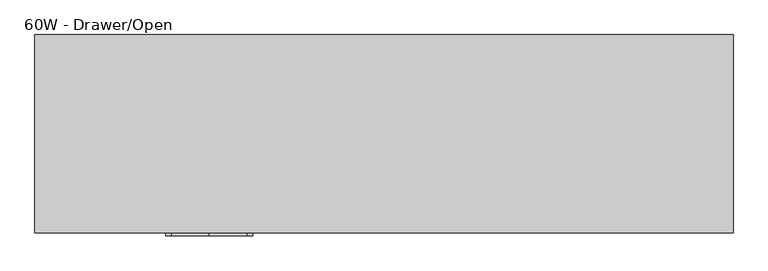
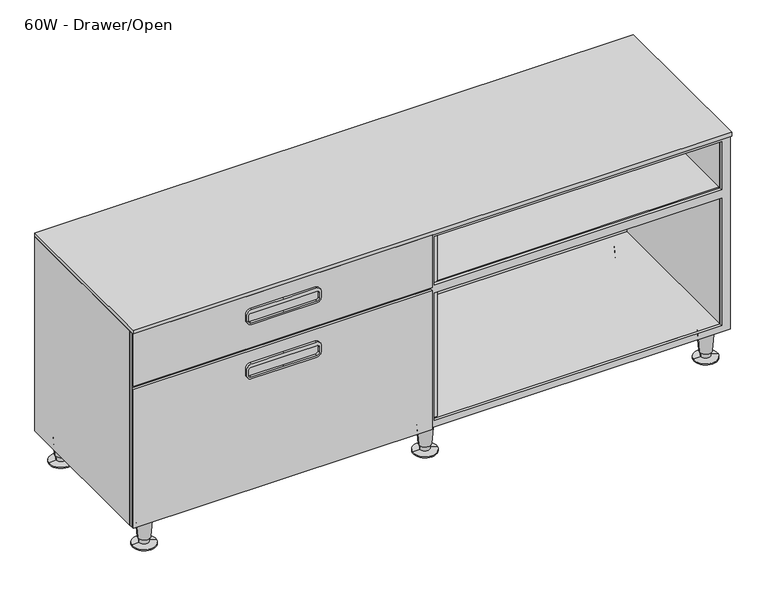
"""IFC4 building model written with IfcOpenShell, lengths in millimetres: furniture geometry, Steelcase - C Scape - Low Storage - 1.5 High - 60W and 72W : 60W - Drawer/Open."""

from ifc_helpers import new_model, si_unit, point, frame, frame_2d, origin, place, context, project, spatial, polyline, circle_curve, trimmed, segment, composite_curve, outline, extrude, faceted_brep, source, transform, mapped, element, save
from ifc_brep_helpers import plane_surface, cylinder_surface, revolved_surface, advanced_brep


def furniture_60w_drawer_open_d55c72f7(model_context):
    return source(origin(), model_context, "Body", "SolidModel", [
        extrude(outline(polyline([(76.1508625, -305.435), (76.1508625, 1218.565), (599.4400097, 1218.565), (599.4400097, 457.132594), (599.4400097, -305.435), (76.1508625, -305.435)]), holes=[polyline([(92.7100024, 447.6410976), (92.7100024, -283.4617676), (436.8800097, -283.4617676), (436.8800097, 447.6410976), (92.7100024, 447.6410976)]), polyline([(588.9625, -283.4617676), (588.9625, 447.6410976), (458.7240097, 447.6410976), (458.7240097, -283.4617676), (588.9625, -283.4617676)]), polyline([(436.8800097, 465.4889024), (436.8800097, 1196.5917676), (92.7100024, 1196.5917676), (92.7100024, 465.4889024), (436.8800097, 465.4889024)]), polyline([(588.9625, 1196.5917676), (458.7240097, 1196.5917676), (458.7240097, 465.4889024), (588.9625, 465.4889024), (588.9625, 1196.5917676)])]), frame((0.0, -426.7186111, 0.0), z_axis=(0.0, 1.0, 0.0), x_axis=(0.0, 0.0, 1.0)), (0.0, 0.0, 1.0), 7.3648883),
        extrude(outline(polyline([(479.1075126, -9.525), (1196.5917676, -9.525), (1196.5917676, -415.2912402), (479.1075126, -415.2912402), (479.1075126, -9.525)])), frame((0.0, 0.0, 436.8800097), z_axis=(0.0, 0.0, 1.0), x_axis=(1.0, 0.0, 0.0)), (0.0, 0.0, 1.0), 21.844),
        extrude(outline(polyline([(434.0224874, -415.2912402), (-283.4617676, -415.2912402), (-283.4617676, -9.525), (434.0224874, -9.525), (434.0224874, -415.2912402)])), frame((0.0, 0.0, 436.8800097), z_axis=(0.0, 0.0, 1.0), x_axis=(1.0, 0.0, 0.0)), (0.0, 0.0, 1.0), 21.844),
        extrude(outline(composite_curve([segment(polyline([(419.0999879, 157.4804108), (419.0999879, 75.247655), (419.0999879, -6.9851007)]), True, "CONTINUOUS"), segment(trimmed(circle_curve(frame_2d((406.3999879, -6.9851007)), 12.7), [point((419.0999879, -6.9851007))], [point((406.3999879, -19.6851007))], False, "CARTESIAN"), True, "CONTINUOUS"), segment(polyline([(406.3999879, -19.6851007), (391.795017, -19.6851007)]), True, "CONTINUOUS"), segment(trimmed(circle_curve(frame_2d((391.795017, -6.9851007)), 12.7), [point((391.795017, -19.6851007))], [point((379.095017, -6.9851007))], False, "CARTESIAN"), True, "CONTINUOUS"), segment(polyline([(379.095017, -6.9851007), (379.095017, 75.247655), (379.095017, 157.4804108)]), True, "CONTINUOUS"), segment(trimmed(circle_curve(frame_2d((391.795017, 157.4804108)), 12.7), [point((379.095017, 157.4804108))], [point((391.795017, 170.1804108))], False, "CARTESIAN"), True, "CONTINUOUS"), segment(polyline([(391.795017, 170.1804108), (406.3999879, 170.1804108)]), True, "CONTINUOUS"), segment(trimmed(circle_curve(frame_2d((406.3999879, 157.4804108)), 12.7), [point((406.3999879, 170.1804108))], [point((419.0999879, 157.4804108))], False, "CARTESIAN"), True, "CONTINUOUS")], self_intersect=False), holes=[composite_curve([segment(polyline([(402.9710063, 165.3527985), (390.2709942, 165.3527985)]), True, "CONTINUOUS"), segment(trimmed(circle_curve(frame_2d((390.2709942, 159.0027985)), 6.35), [point((390.2709942, 165.3527985))], [point((383.9209942, 159.0027985))], True, "CARTESIAN"), True, "CONTINUOUS"), segment(polyline([(383.9209942, 159.0027985), (383.9209942, 75.247655), (383.9209942, -8.5074884)]), True, "CONTINUOUS"), segment(trimmed(circle_curve(frame_2d((390.2709942, -8.5074884)), 6.35), [point((383.9209942, -8.5074884))], [point((390.2709942, -14.8574884))], True, "CARTESIAN"), True, "CONTINUOUS"), segment(polyline([(390.2709942, -14.8574884), (402.9710063, -14.8574884)]), True, "CONTINUOUS"), segment(trimmed(circle_curve(frame_2d((402.9710063, -8.5074884)), 6.35), [point((402.9710063, -14.8574884))], [point((409.3210063, -8.5074884))], True, "CARTESIAN"), True, "CONTINUOUS"), segment(polyline([(409.3210063, -8.5074884), (409.3210063, 75.247655), (409.3210063, 159.0027985)]), True, "CONTINUOUS"), segment(trimmed(circle_curve(frame_2d((402.9710063, 159.0027985)), 6.35), [point((409.3210063, 159.0027985))], [point((402.9710063, 165.3527985))], True, "CARTESIAN"), True, "CONTINUOUS")], self_intersect=False)]), frame((0.0, -439.42, 0.0), z_axis=(0.0, 1.0, 0.0), x_axis=(0.0, 0.0, 1.0)), (0.0, 0.0, 1.0), 6.35),
        extrude(outline(polyline([(455.9303101, -426.7186111), (455.9303101, -433.07), (-304.8, -433.07), (-304.8, -426.7186111), (455.9303101, -426.7186111)])), frame((0.0, 0.0, 458.7240097), z_axis=(0.0, 0.0, 1.0), x_axis=(1.0, 0.0, 0.0)), (0.0, 0.0, 1.0), 140.716),
        faceted_brep([(-283.4617676, -419.3537227, 92.7100024), (1196.5917676, -419.3537227, 92.7100024), (1196.5917676, -9.525, 92.7100024), (479.1075126, -9.525, 92.7100024), (479.1075126, -415.2912402, 92.7100024), (434.0224874, -415.2912402, 92.7100024), (434.0224874, -9.525, 92.7100024), (-283.4617676, -9.525, 92.7100024), (1218.565, 0.0, 76.2), (1218.565, -419.3537227, 76.2), (-305.435, -419.3537227, 76.2), (-305.435, 0.0, 76.2), (-283.4630912, -419.3537227, 599.4400097), (-305.435, -419.3537227, 599.4400097), (1218.565, -419.3537227, 599.4400097), (1196.5917676, -419.3537227, 599.4400097), (-305.435, 0.0, 599.4400097), (1218.565, 0.0, 599.4400097), (-283.4630912, -9.525, 599.4400097), (434.0224874, -9.525, 599.4400097), (434.0224874, -415.2912402, 599.4400097), (479.1075126, -415.2912402, 599.4400097), (479.1075126, -9.525, 599.4400097), (1196.5917676, -9.525, 599.4400097)], [[[0, 1, 2, 3, 4, 5, 6, 7]], [[8, 9, 10, 11]], [[1, 0, 12, 13, 10, 9, 14, 15]], [[8, 11, 16, 17]], [[16, 13, 12, 18, 19, 20, 21, 22, 23, 15, 14, 17]], [[13, 16, 11, 10]], [[18, 12, 0, 7]], [[19, 18, 7, 6]], [[20, 19, 6, 5]], [[22, 21, 4, 3]], [[23, 22, 3, 2]], [[15, 23, 2, 1]], [[17, 14, 9, 8]], [[21, 20, 5, 4]]]),
        extrude(outline(composite_curve([segment(polyline([(565.1499879, 157.4804108), (565.1499879, 75.247655), (565.1499879, -6.9851007)]), True, "CONTINUOUS"), segment(trimmed(circle_curve(frame_2d((552.4499879, -6.9851007)), 12.7), [point((565.1499879, -6.9851007))], [point((552.4499879, -19.6851007))], False, "CARTESIAN"), True, "CONTINUOUS"), segment(polyline([(552.4499879, -19.6851007), (537.845017, -19.6851007)]), True, "CONTINUOUS"), segment(trimmed(circle_curve(frame_2d((537.845017, -6.9851007)), 12.7), [point((537.845017, -19.6851007))], [point((525.145017, -6.9851007))], False, "CARTESIAN"), True, "CONTINUOUS"), segment(polyline([(525.145017, -6.9851007), (525.145017, 75.247655), (525.145017, 157.4804108)]), True, "CONTINUOUS"), segment(trimmed(circle_curve(frame_2d((537.845017, 157.4804108)), 12.7), [point((525.145017, 157.4804108))], [point((537.845017, 170.1804108))], False, "CARTESIAN"), True, "CONTINUOUS"), segment(polyline([(537.845017, 170.1804108), (552.4499879, 170.1804108)]), True, "CONTINUOUS"), segment(trimmed(circle_curve(frame_2d((552.4499879, 157.4804108)), 12.7), [point((552.4499879, 170.1804108))], [point((565.1499879, 157.4804108))], False, "CARTESIAN"), True, "CONTINUOUS")], self_intersect=False), holes=[composite_curve([segment(polyline([(549.0210063, 165.3527985), (536.3209942, 165.3527985)]), True, "CONTINUOUS"), segment(trimmed(circle_curve(frame_2d((536.3209942, 159.0027985)), 6.35), [point((536.3209942, 165.3527985))], [point((529.9709942, 159.0027985))], True, "CARTESIAN"), True, "CONTINUOUS"), segment(polyline([(529.9709942, 159.0027985), (529.9709942, 75.247655), (529.9709942, -8.5074884)]), True, "CONTINUOUS"), segment(trimmed(circle_curve(frame_2d((536.3209942, -8.5074884)), 6.35), [point((529.9709942, -8.5074884))], [point((536.3209942, -14.8574884))], True, "CARTESIAN"), True, "CONTINUOUS"), segment(polyline([(536.3209942, -14.8574884), (549.0210063, -14.8574884)]), True, "CONTINUOUS"), segment(trimmed(circle_curve(frame_2d((549.0210063, -8.5074884)), 6.35), [point((549.0210063, -14.8574884))], [point((555.3710063, -8.5074884))], True, "CARTESIAN"), True, "CONTINUOUS"), segment(polyline([(555.3710063, -8.5074884), (555.3710063, 75.247655), (555.3710063, 159.0027985)]), True, "CONTINUOUS"), segment(trimmed(circle_curve(frame_2d((549.0210063, 159.0027985)), 6.35), [point((555.3710063, 159.0027985))], [point((549.0210063, 165.3527985))], True, "CARTESIAN"), True, "CONTINUOUS")], self_intersect=False)]), frame((0.0, -439.42, 0.0), z_axis=(0.0, 1.0, 0.0), x_axis=(0.0, 0.0, 1.0)), (0.0, 0.0, 1.0), 6.35),
        extrude(outline(polyline([(455.9303101, -426.7186111), (455.9303101, -433.07), (-304.8, -433.07), (-304.8, -426.7186111), (455.9303101, -426.7186111)])), frame((0.0, 0.0, 76.2), z_axis=(0.0, 0.0, 1.0), x_axis=(1.0, 0.0, 0.0)), (0.0, 0.0, 1.0), 374.6500097),
        advanced_brep(
        [(427.4539515, -29.9489775, 0.0), (485.6760485, -38.8569507, 0.0), (456.565, -34.4029641, 0.0), (427.4539515, -29.9489775, 2.5119506), (485.6760485, -38.8569507, 2.5119506), (444.802835, -32.6033544, 5.7545598), (468.327165, -36.2025738, 5.7545598), (444.1140655, -32.4979728, 19.05), (469.0159345, -36.3079555, 19.05), (441.6844786, -32.1262463, 19.05), (471.4455214, -36.6796819, 19.05), (437.7341305, -31.5218435, 76.2), (475.3958695, -37.2840847, 76.2), (456.565, -34.4029641, 76.2)],
        [
            (0, 1, circle_curve(frame((456.565, -34.4029641, 0.0), z_axis=(0.0, 0.0, -1.0), x_axis=(0.0, -1.0, 0.0)), 29.4498071)),
            (1, 2),
            (2, 0),
            (1, 0, circle_curve(frame((456.565, -34.4029641, 0.0), z_axis=(0.0, 0.0, -1.0), x_axis=(0.0, -1.0, 0.0)), 29.4498071)),
            (3, 4, circle_curve(frame((456.565, -34.4029641, 2.5119506), z_axis=(0.0, 0.0, -1.0), x_axis=(0.0, -1.0, 0.0)), 29.4498071)),
            (4, 1),
            (0, 3),
            (4, 3, circle_curve(frame((456.565, -34.4029641, 2.5119506), z_axis=(0.0, 0.0, -1.0), x_axis=(0.0, -1.0, 0.0)), 29.4498071)),
            (5, 6, circle_curve(frame((456.565, -34.4029641, 5.7545598), z_axis=(0.0, 0.0, -1.0), x_axis=(0.0, -1.0, 0.0)), 11.8990387)),
            (6, 4),
            (3, 5),
            (6, 5, circle_curve(frame((456.565, -34.4029641, 5.7545598), z_axis=(0.0, 0.0, -1.0), x_axis=(0.0, -1.0, 0.0)), 11.8990387)),
            (7, 8, circle_curve(frame((456.565, -34.4029641, 19.05), z_axis=(0.0, 0.0, -1.0), x_axis=(0.0, -1.0, 0.0)), 12.5958232)),
            (8, 6),
            (5, 7),
            (8, 7, circle_curve(frame((456.565, -34.4029641, 19.05), z_axis=(0.0, 0.0, -1.0), x_axis=(0.0, -1.0, 0.0)), 12.5958232)),
            (9, 10, circle_curve(frame((456.565, -34.4029641, 19.05), z_axis=(0.0, 0.0, -1.0), x_axis=(0.0, -1.0, 0.0)), 15.0536827)),
            (10, 8),
            (7, 9),
            (10, 9, circle_curve(frame((456.565, -34.4029641, 19.05), z_axis=(0.0, 0.0, -1.0), x_axis=(0.0, -1.0, 0.0)), 15.0536827)),
            (11, 12, circle_curve(frame((456.565, -34.4029641, 76.2), z_axis=(0.0, 0.0, -1.0), x_axis=(0.0, -1.0, 0.0)), 19.05)),
            (12, 10),
            (9, 11),
            (12, 11, circle_curve(frame((456.565, -34.4029641, 76.2), z_axis=(0.0, 0.0, -1.0), x_axis=(0.0, -1.0, 0.0)), 19.05)),
            (13, 12),
            (11, 13),
        ],
        [
            plane_surface(frame((456.565, -34.4029641, 0.0), z_axis=(0.0, 0.0, -1.0), x_axis=(0.0, -1.0, 0.0))),
            cylinder_surface(frame((456.565, -34.4029641, 25.4), z_axis=(0.0, 0.0, 1.0), x_axis=(0.0, -1.0, 0.0)), 29.4498071),
            revolved_surface(polyline([(456.565, -63.8527712, 2.5119506), (456.565, -46.3020028, 5.7545598)]), (456.565, -34.4029641, 25.4), (0.0, 0.0, 1.0)),
            revolved_surface(polyline([(456.565, -46.3020028, 5.7545598), (456.565, -46.9987873, 19.05)]), (456.565, -34.4029641, 25.4), (0.0, 0.0, 1.0)),
            plane_surface(frame((456.565, -34.4029641, 19.05), z_axis=(0.0, 0.0, -1.0), x_axis=(0.0, -1.0, 0.0))),
            revolved_surface(polyline([(456.565, -49.4566468, 19.05), (456.565, -53.4529641, 76.2)]), (456.565, -34.4029641, 25.4), (0.0, 0.0, 1.0)),
            plane_surface(frame((456.565, -34.4029641, 76.2), z_axis=(0.0, 0.0, 1.0), x_axis=(0.0, -1.0, 0.0))),
        ],
        [
            (0, [[1, 2, 3]]),
            (0, [[4, -3, -2]]),
            (1, [[5, 6, -1, 7]]),
            (1, [[8, -7, -4, -6]]),
            (2, [[9, 10, -5, 11]]),
            (2, [[12, -11, -8, -10]]),
            (3, [[13, 14, -9, 15]]),
            (3, [[16, -15, -12, -14]]),
            (4, [[17, 18, -13, 19]]),
            (4, [[20, -19, -16, -18]]),
            (5, [[21, 22, -17, 23]]),
            (5, [[24, -23, -20, -22]]),
            (6, [[25, -21, 26]]),
            (6, [[-26, -24, -25]]),
        ],
    ),
        advanced_brep(
        [(427.4539515, -395.5974102, 0.0), (485.6760485, -404.5053834, 0.0), (456.565, -400.0513968, 0.0), (427.4539515, -395.5974102, 2.5119506), (485.6760485, -404.5053834, 2.5119506), (444.802835, -398.2517871, 5.7545598), (468.327165, -401.8510065, 5.7545598), (444.1140655, -398.1464055, 19.05), (469.0159345, -401.9563882, 19.05), (441.6844786, -397.774679, 19.05), (471.4455214, -402.3281146, 19.05), (437.7341305, -397.1702762, 76.2), (475.3958695, -402.9325174, 76.2), (456.565, -400.0513968, 76.2)],
        [
            (0, 1, circle_curve(frame((456.565, -400.0513968, 0.0), z_axis=(0.0, 0.0, -1.0), x_axis=(0.0, -1.0, 0.0)), 29.4498071)),
            (1, 2),
            (2, 0),
            (1, 0, circle_curve(frame((456.565, -400.0513968, 0.0), z_axis=(0.0, 0.0, -1.0), x_axis=(0.0, -1.0, 0.0)), 29.4498071)),
            (3, 4, circle_curve(frame((456.565, -400.0513968, 2.5119506), z_axis=(0.0, 0.0, -1.0), x_axis=(0.0, -1.0, 0.0)), 29.4498071)),
            (4, 1),
            (0, 3),
            (4, 3, circle_curve(frame((456.565, -400.0513968, 2.5119506), z_axis=(0.0, 0.0, -1.0), x_axis=(0.0, -1.0, 0.0)), 29.4498071)),
            (5, 6, circle_curve(frame((456.565, -400.0513968, 5.7545598), z_axis=(0.0, 0.0, -1.0), x_axis=(0.0, -1.0, 0.0)), 11.8990387)),
            (6, 4),
            (3, 5),
            (6, 5, circle_curve(frame((456.565, -400.0513968, 5.7545598), z_axis=(0.0, 0.0, -1.0), x_axis=(0.0, -1.0, 0.0)), 11.8990387)),
            (7, 8, circle_curve(frame((456.565, -400.0513968, 19.05), z_axis=(0.0, 0.0, -1.0), x_axis=(0.0, -1.0, 0.0)), 12.5958232)),
            (8, 6),
            (5, 7),
            (8, 7, circle_curve(frame((456.565, -400.0513968, 19.05), z_axis=(0.0, 0.0, -1.0), x_axis=(0.0, -1.0, 0.0)), 12.5958232)),
            (9, 10, circle_curve(frame((456.565, -400.0513968, 19.05), z_axis=(0.0, 0.0, -1.0), x_axis=(0.0, -1.0, 0.0)), 15.0536827)),
            (10, 8),
            (7, 9),
            (10, 9, circle_curve(frame((456.565, -400.0513968, 19.05), z_axis=(0.0, 0.0, -1.0), x_axis=(0.0, -1.0, 0.0)), 15.0536827)),
            (11, 12, circle_curve(frame((456.565, -400.0513968, 76.2), z_axis=(0.0, 0.0, -1.0), x_axis=(0.0, -1.0, 0.0)), 19.05)),
            (12, 10),
            (9, 11),
            (12, 11, circle_curve(frame((456.565, -400.0513968, 76.2), z_axis=(0.0, 0.0, -1.0), x_axis=(0.0, -1.0, 0.0)), 19.05)),
            (13, 12),
            (11, 13),
        ],
        [
            plane_surface(frame((456.565, -400.0513968, 0.0), z_axis=(0.0, 0.0, -1.0), x_axis=(0.0, -1.0, 0.0))),
            cylinder_surface(frame((456.565, -400.0513968, 25.4), z_axis=(0.0, 0.0, 1.0), x_axis=(0.0, -1.0, 0.0)), 29.4498071),
            revolved_surface(polyline([(456.565, -429.5012039, 2.5119506), (456.565, -411.9504355, 5.7545598)]), (456.565, -400.0513968, 25.4), (0.0, 0.0, 1.0)),
            revolved_surface(polyline([(456.565, -411.9504355, 5.7545598), (456.565, -412.64722, 19.05)]), (456.565, -400.0513968, 25.4), (0.0, 0.0, 1.0)),
            plane_surface(frame((456.565, -400.0513968, 19.05), z_axis=(0.0, 0.0, -1.0), x_axis=(0.0, -1.0, 0.0))),
            revolved_surface(polyline([(456.565, -415.1050795, 19.05), (456.565, -419.1013968, 76.2)]), (456.565, -400.0513968, 25.4), (0.0, 0.0, 1.0)),
            plane_surface(frame((456.565, -400.0513968, 76.2), z_axis=(0.0, 0.0, 1.0), x_axis=(0.0, -1.0, 0.0))),
        ],
        [
            (0, [[1, 2, 3]]),
            (0, [[4, -3, -2]]),
            (1, [[5, 6, -1, 7]]),
            (1, [[8, -7, -4, -6]]),
            (2, [[9, 10, -5, 11]]),
            (2, [[12, -11, -8, -10]]),
            (3, [[13, 14, -9, 15]]),
            (3, [[16, -15, -12, -14]]),
            (4, [[17, 18, -13, 19]]),
            (4, [[20, -19, -16, -18]]),
            (5, [[21, 22, -17, 23]]),
            (5, [[24, -23, -20, -22]]),
            (6, [[25, -21, 26]]),
            (6, [[-26, -24, -25]]),
        ],
    ),
        advanced_brep(
        [(1142.1075389, -29.9489775, 0.0), (1200.3296359, -38.8569507, 0.0), (1171.2185874, -34.4029641, 0.0), (1142.1075389, -29.9489775, 2.5119506), (1200.3296359, -38.8569507, 2.5119506), (1159.4564224, -32.6033544, 5.7545598), (1182.9807524, -36.2025738, 5.7545598), (1158.7676529, -32.4979728, 19.05), (1183.6695219, -36.3079555, 19.05), (1156.3380659, -32.1262463, 19.05), (1186.0991088, -36.6796819, 19.05), (1152.3877179, -31.5218435, 76.2), (1190.0494568, -37.2840847, 76.2), (1171.2185874, -34.4029641, 76.2)],
        [
            (0, 1, circle_curve(frame((1171.2185874, -34.4029641, 0.0), z_axis=(0.0, 0.0, -1.0), x_axis=(0.0, -1.0, 0.0)), 29.4498071)),
            (1, 2),
            (2, 0),
            (1, 0, circle_curve(frame((1171.2185874, -34.4029641, 0.0), z_axis=(0.0, 0.0, -1.0), x_axis=(0.0, -1.0, 0.0)), 29.4498071)),
            (3, 4, circle_curve(frame((1171.2185874, -34.4029641, 2.5119506), z_axis=(0.0, 0.0, -1.0), x_axis=(0.0, -1.0, 0.0)), 29.4498071)),
            (4, 1),
            (0, 3),
            (4, 3, circle_curve(frame((1171.2185874, -34.4029641, 2.5119506), z_axis=(0.0, 0.0, -1.0), x_axis=(0.0, -1.0, 0.0)), 29.4498071)),
            (5, 6, circle_curve(frame((1171.2185874, -34.4029641, 5.7545598), z_axis=(0.0, 0.0, -1.0), x_axis=(0.0, -1.0, 0.0)), 11.8990387)),
            (6, 4),
            (3, 5),
            (6, 5, circle_curve(frame((1171.2185874, -34.4029641, 5.7545598), z_axis=(0.0, 0.0, -1.0), x_axis=(0.0, -1.0, 0.0)), 11.8990387)),
            (7, 8, circle_curve(frame((1171.2185874, -34.4029641, 19.05), z_axis=(0.0, 0.0, -1.0), x_axis=(0.0, -1.0, 0.0)), 12.5958232)),
            (8, 6),
            (5, 7),
            (8, 7, circle_curve(frame((1171.2185874, -34.4029641, 19.05), z_axis=(0.0, 0.0, -1.0), x_axis=(0.0, -1.0, 0.0)), 12.5958232)),
            (9, 10, circle_curve(frame((1171.2185874, -34.4029641, 19.05), z_axis=(0.0, 0.0, -1.0), x_axis=(0.0, -1.0, 0.0)), 15.0536827)),
            (10, 8),
            (7, 9),
            (10, 9, circle_curve(frame((1171.2185874, -34.4029641, 19.05), z_axis=(0.0, 0.0, -1.0), x_axis=(0.0, -1.0, 0.0)), 15.0536827)),
            (11, 12, circle_curve(frame((1171.2185874, -34.4029641, 76.2), z_axis=(0.0, 0.0, -1.0), x_axis=(0.0, -1.0, 0.0)), 19.05)),
            (12, 10),
            (9, 11),
            (12, 11, circle_curve(frame((1171.2185874, -34.4029641, 76.2), z_axis=(0.0, 0.0, -1.0), x_axis=(0.0, -1.0, 0.0)), 19.05)),
            (13, 12),
            (11, 13),
        ],
        [
            plane_surface(frame((1171.2185874, -34.4029641, 0.0), z_axis=(0.0, 0.0, -1.0), x_axis=(0.0, -1.0, 0.0))),
            cylinder_surface(frame((1171.2185874, -34.4029641, 25.4), z_axis=(0.0, 0.0, 1.0), x_axis=(0.0, -1.0, 0.0)), 29.4498071),
            revolved_surface(polyline([(1171.2185874, -63.8527712, 2.5119506), (1171.2185874, -46.3020028, 5.7545598)]), (1171.2185874, -34.4029641, 25.4), (0.0, 0.0, 1.0)),
            revolved_surface(polyline([(1171.2185874, -46.3020028, 5.7545598), (1171.2185874, -46.9987873, 19.05)]), (1171.2185874, -34.4029641, 25.4), (0.0, 0.0, 1.0)),
            plane_surface(frame((1171.2185874, -34.4029641, 19.05), z_axis=(0.0, 0.0, -1.0), x_axis=(0.0, -1.0, 0.0))),
            revolved_surface(polyline([(1171.2185874, -49.4566468, 19.05), (1171.2185874, -53.4529641, 76.2)]), (1171.2185874, -34.4029641, 25.4), (0.0, 0.0, 1.0)),
            plane_surface(frame((1171.2185874, -34.4029641, 76.2), z_axis=(0.0, 0.0, 1.0), x_axis=(0.0, -1.0, 0.0))),
        ],
        [
            (0, [[1, 2, 3]]),
            (0, [[4, -3, -2]]),
            (1, [[5, 6, -1, 7]]),
            (1, [[8, -7, -4, -6]]),
            (2, [[9, 10, -5, 11]]),
            (2, [[12, -11, -8, -10]]),
            (3, [[13, 14, -9, 15]]),
            (3, [[16, -15, -12, -14]]),
            (4, [[17, 18, -13, 19]]),
            (4, [[20, -19, -16, -18]]),
            (5, [[21, 22, -17, 23]]),
            (5, [[24, -23, -20, -22]]),
            (6, [[25, -21, 26]]),
            (6, [[-26, -24, -25]]),
        ],
    ),
        advanced_brep(
        [(1142.1075389, -395.5974102, 0.0), (1200.3296359, -404.5053834, 0.0), (1171.2185874, -400.0513968, 0.0), (1142.1075389, -395.5974102, 2.5119506), (1200.3296359, -404.5053834, 2.5119506), (1159.4564224, -398.2517871, 5.7545598), (1182.9807524, -401.8510065, 5.7545598), (1158.7676529, -398.1464055, 19.05), (1183.6695219, -401.9563882, 19.05), (1156.3380659, -397.774679, 19.05), (1186.0991088, -402.3281146, 19.05), (1152.3877179, -397.1702762, 76.2), (1190.0494568, -402.9325174, 76.2), (1171.2185874, -400.0513968, 76.2)],
        [
            (0, 1, circle_curve(frame((1171.2185874, -400.0513968, 0.0), z_axis=(0.0, 0.0, -1.0), x_axis=(0.0, -1.0, 0.0)), 29.4498071)),
            (1, 2),
            (2, 0),
            (1, 0, circle_curve(frame((1171.2185874, -400.0513968, 0.0), z_axis=(0.0, 0.0, -1.0), x_axis=(0.0, -1.0, 0.0)), 29.4498071)),
            (3, 4, circle_curve(frame((1171.2185874, -400.0513968, 2.5119506), z_axis=(0.0, 0.0, -1.0), x_axis=(0.0, -1.0, 0.0)), 29.4498071)),
            (4, 1),
            (0, 3),
            (4, 3, circle_curve(frame((1171.2185874, -400.0513968, 2.5119506), z_axis=(0.0, 0.0, -1.0), x_axis=(0.0, -1.0, 0.0)), 29.4498071)),
            (5, 6, circle_curve(frame((1171.2185874, -400.0513968, 5.7545598), z_axis=(0.0, 0.0, -1.0), x_axis=(0.0, -1.0, 0.0)), 11.8990387)),
            (6, 4),
            (3, 5),
            (6, 5, circle_curve(frame((1171.2185874, -400.0513968, 5.7545598), z_axis=(0.0, 0.0, -1.0), x_axis=(0.0, -1.0, 0.0)), 11.8990387)),
            (7, 8, circle_curve(frame((1171.2185874, -400.0513968, 19.05), z_axis=(0.0, 0.0, -1.0), x_axis=(0.0, -1.0, 0.0)), 12.5958232)),
            (8, 6),
            (5, 7),
            (8, 7, circle_curve(frame((1171.2185874, -400.0513968, 19.05), z_axis=(0.0, 0.0, -1.0), x_axis=(0.0, -1.0, 0.0)), 12.5958232)),
            (9, 10, circle_curve(frame((1171.2185874, -400.0513968, 19.05), z_axis=(0.0, 0.0, -1.0), x_axis=(0.0, -1.0, 0.0)), 15.0536827)),
            (10, 8),
            (7, 9),
            (10, 9, circle_curve(frame((1171.2185874, -400.0513968, 19.05), z_axis=(0.0, 0.0, -1.0), x_axis=(0.0, -1.0, 0.0)), 15.0536827)),
            (11, 12, circle_curve(frame((1171.2185874, -400.0513968, 76.2), z_axis=(0.0, 0.0, -1.0), x_axis=(0.0, -1.0, 0.0)), 19.05)),
            (12, 10),
            (9, 11),
            (12, 11, circle_curve(frame((1171.2185874, -400.0513968, 76.2), z_axis=(0.0, 0.0, -1.0), x_axis=(0.0, -1.0, 0.0)), 19.05)),
            (13, 12),
            (11, 13),
        ],
        [
            plane_surface(frame((1171.2185874, -400.0513968, 0.0), z_axis=(0.0, 0.0, -1.0), x_axis=(0.0, -1.0, 0.0))),
            cylinder_surface(frame((1171.2185874, -400.0513968, 25.4), z_axis=(0.0, 0.0, 1.0), x_axis=(0.0, -1.0, 0.0)), 29.4498071),
            revolved_surface(polyline([(1171.2185874, -429.5012039, 2.5119506), (1171.2185874, -411.9504355, 5.7545598)]), (1171.2185874, -400.0513968, 25.4), (0.0, 0.0, 1.0)),
            revolved_surface(polyline([(1171.2185874, -411.9504355, 5.7545598), (1171.2185874, -412.64722, 19.05)]), (1171.2185874, -400.0513968, 25.4), (0.0, 0.0, 1.0)),
            plane_surface(frame((1171.2185874, -400.0513968, 19.05), z_axis=(0.0, 0.0, -1.0), x_axis=(0.0, -1.0, 0.0))),
            revolved_surface(polyline([(1171.2185874, -415.1050795, 19.05), (1171.2185874, -419.1013968, 76.2)]), (1171.2185874, -400.0513968, 25.4), (0.0, 0.0, 1.0)),
            plane_surface(frame((1171.2185874, -400.0513968, 76.2), z_axis=(0.0, 0.0, 1.0), x_axis=(0.0, -1.0, 0.0))),
        ],
        [
            (0, [[1, 2, 3]]),
            (0, [[4, -3, -2]]),
            (1, [[5, 6, -1, 7]]),
            (1, [[8, -7, -4, -6]]),
            (2, [[9, 10, -5, 11]]),
            (2, [[12, -11, -8, -10]]),
            (3, [[13, 14, -9, 15]]),
            (3, [[16, -15, -12, -14]]),
            (4, [[17, 18, -13, 19]]),
            (4, [[20, -19, -16, -18]]),
            (5, [[21, 22, -17, 23]]),
            (5, [[24, -23, -20, -22]]),
            (6, [[25, -21, 26]]),
            (6, [[-26, -24, -25]]),
        ],
    ),
        advanced_brep(
        [(-287.8113721, -395.5974102, 0.0), (-229.5892752, -404.5053834, 0.0), (-258.7003237, -400.0513968, 0.0), (-287.8113721, -395.5974102, 2.5119506), (-229.5892752, -404.5053834, 2.5119506), (-270.4624887, -398.2517871, 5.7545598), (-246.9381586, -401.8510065, 5.7545598), (-271.1512581, -398.1464055, 19.05), (-246.2493892, -401.9563882, 19.05), (-273.5808451, -397.774679, 19.05), (-243.8198022, -402.3281146, 19.05), (-277.5311931, -397.1702762, 76.2), (-239.8694542, -402.9325174, 76.2), (-258.7003237, -400.0513968, 76.2)],
        [
            (0, 1, circle_curve(frame((-258.7003237, -400.0513968, 0.0), z_axis=(0.0, 0.0, -1.0), x_axis=(0.0, -1.0, 0.0)), 29.4498071)),
            (1, 2),
            (2, 0),
            (1, 0, circle_curve(frame((-258.7003237, -400.0513968, 0.0), z_axis=(0.0, 0.0, -1.0), x_axis=(0.0, -1.0, 0.0)), 29.4498071)),
            (3, 4, circle_curve(frame((-258.7003237, -400.0513968, 2.5119506), z_axis=(0.0, 0.0, -1.0), x_axis=(0.0, -1.0, 0.0)), 29.4498071)),
            (4, 1),
            (0, 3),
            (4, 3, circle_curve(frame((-258.7003237, -400.0513968, 2.5119506), z_axis=(0.0, 0.0, -1.0), x_axis=(0.0, -1.0, 0.0)), 29.4498071)),
            (5, 6, circle_curve(frame((-258.7003237, -400.0513968, 5.7545598), z_axis=(0.0, 0.0, -1.0), x_axis=(0.0, -1.0, 0.0)), 11.8990387)),
            (6, 4),
            (3, 5),
            (6, 5, circle_curve(frame((-258.7003237, -400.0513968, 5.7545598), z_axis=(0.0, 0.0, -1.0), x_axis=(0.0, -1.0, 0.0)), 11.8990387)),
            (7, 8, circle_curve(frame((-258.7003237, -400.0513968, 19.05), z_axis=(0.0, 0.0, -1.0), x_axis=(0.0, -1.0, 0.0)), 12.5958232)),
            (8, 6),
            (5, 7),
            (8, 7, circle_curve(frame((-258.7003237, -400.0513968, 19.05), z_axis=(0.0, 0.0, -1.0), x_axis=(0.0, -1.0, 0.0)), 12.5958232)),
            (9, 10, circle_curve(frame((-258.7003237, -400.0513968, 19.05), z_axis=(0.0, 0.0, -1.0), x_axis=(0.0, -1.0, 0.0)), 15.0536827)),
            (10, 8),
            (7, 9),
            (10, 9, circle_curve(frame((-258.7003237, -400.0513968, 19.05), z_axis=(0.0, 0.0, -1.0), x_axis=(0.0, -1.0, 0.0)), 15.0536827)),
            (11, 12, circle_curve(frame((-258.7003237, -400.0513968, 76.2), z_axis=(0.0, 0.0, -1.0), x_axis=(0.0, -1.0, 0.0)), 19.05)),
            (12, 10),
            (9, 11),
            (12, 11, circle_curve(frame((-258.7003237, -400.0513968, 76.2), z_axis=(0.0, 0.0, -1.0), x_axis=(0.0, -1.0, 0.0)), 19.05)),
            (13, 12),
            (11, 13),
        ],
        [
            plane_surface(frame((-258.7003237, -400.0513968, 0.0), z_axis=(0.0, 0.0, -1.0), x_axis=(0.0, -1.0, 0.0))),
            cylinder_surface(frame((-258.7003237, -400.0513968, 25.4), z_axis=(0.0, 0.0, 1.0), x_axis=(0.0, -1.0, 0.0)), 29.4498071),
            revolved_surface(polyline([(-258.7003237, -429.5012039, 2.5119506), (-258.7003237, -411.9504355, 5.7545598)]), (-258.7003237, -400.0513968, 25.4), (0.0, 0.0, 1.0)),
            revolved_surface(polyline([(-258.7003237, -411.9504355, 5.7545598), (-258.7003237, -412.64722, 19.05)]), (-258.7003237, -400.0513968, 25.4), (0.0, 0.0, 1.0)),
            plane_surface(frame((-258.7003237, -400.0513968, 19.05), z_axis=(0.0, 0.0, -1.0), x_axis=(0.0, -1.0, 0.0))),
            revolved_surface(polyline([(-258.7003237, -415.1050795, 19.05), (-258.7003237, -419.1013968, 76.2)]), (-258.7003237, -400.0513968, 25.4), (0.0, 0.0, 1.0)),
            plane_surface(frame((-258.7003237, -400.0513968, 76.2), z_axis=(0.0, 0.0, 1.0), x_axis=(0.0, -1.0, 0.0))),
        ],
        [
            (0, [[1, 2, 3]]),
            (0, [[4, -3, -2]]),
            (1, [[5, 6, -1, 7]]),
            (1, [[8, -7, -4, -6]]),
            (2, [[9, 10, -5, 11]]),
            (2, [[12, -11, -8, -10]]),
            (3, [[13, 14, -9, 15]]),
            (3, [[16, -15, -12, -14]]),
            (4, [[17, 18, -13, 19]]),
            (4, [[20, -19, -16, -18]]),
            (5, [[21, 22, -17, 23]]),
            (5, [[24, -23, -20, -22]]),
            (6, [[25, -21, 26]]),
            (6, [[-26, -24, -25]]),
        ],
    ),
        advanced_brep(
        [(-287.8113721, -29.9489775, 0.0), (-229.5892752, -38.8569507, 0.0), (-258.7003237, -34.4029641, 0.0), (-287.8113721, -29.9489775, 2.5119506), (-229.5892752, -38.8569507, 2.5119506), (-270.4624887, -32.6033544, 5.7545598), (-246.9381586, -36.2025738, 5.7545598), (-271.1512581, -32.4979728, 19.05), (-246.2493892, -36.3079555, 19.05), (-273.5808451, -32.1262463, 19.05), (-243.8198022, -36.6796819, 19.05), (-277.5311931, -31.5218435, 76.2), (-239.8694542, -37.2840847, 76.2), (-258.7003237, -34.4029641, 76.2)],
        [
            (0, 1, circle_curve(frame((-258.7003237, -34.4029641, 0.0), z_axis=(0.0, 0.0, -1.0), x_axis=(0.0, -1.0, 0.0)), 29.4498071)),
            (1, 2),
            (2, 0),
            (1, 0, circle_curve(frame((-258.7003237, -34.4029641, 0.0), z_axis=(0.0, 0.0, -1.0), x_axis=(0.0, -1.0, 0.0)), 29.4498071)),
            (3, 4, circle_curve(frame((-258.7003237, -34.4029641, 2.5119506), z_axis=(0.0, 0.0, -1.0), x_axis=(0.0, -1.0, 0.0)), 29.4498071)),
            (4, 1),
            (0, 3),
            (4, 3, circle_curve(frame((-258.7003237, -34.4029641, 2.5119506), z_axis=(0.0, 0.0, -1.0), x_axis=(0.0, -1.0, 0.0)), 29.4498071)),
            (5, 6, circle_curve(frame((-258.7003237, -34.4029641, 5.7545598), z_axis=(0.0, 0.0, -1.0), x_axis=(0.0, -1.0, 0.0)), 11.8990387)),
            (6, 4),
            (3, 5),
            (6, 5, circle_curve(frame((-258.7003237, -34.4029641, 5.7545598), z_axis=(0.0, 0.0, -1.0), x_axis=(0.0, -1.0, 0.0)), 11.8990387)),
            (7, 8, circle_curve(frame((-258.7003237, -34.4029641, 19.05), z_axis=(0.0, 0.0, -1.0), x_axis=(0.0, -1.0, 0.0)), 12.5958232)),
            (8, 6),
            (5, 7),
            (8, 7, circle_curve(frame((-258.7003237, -34.4029641, 19.05), z_axis=(0.0, 0.0, -1.0), x_axis=(0.0, -1.0, 0.0)), 12.5958232)),
            (9, 10, circle_curve(frame((-258.7003237, -34.4029641, 19.05), z_axis=(0.0, 0.0, -1.0), x_axis=(0.0, -1.0, 0.0)), 15.0536827)),
            (10, 8),
            (7, 9),
            (10, 9, circle_curve(frame((-258.7003237, -34.4029641, 19.05), z_axis=(0.0, 0.0, -1.0), x_axis=(0.0, -1.0, 0.0)), 15.0536827)),
            (11, 12, circle_curve(frame((-258.7003237, -34.4029641, 76.2), z_axis=(0.0, 0.0, -1.0), x_axis=(0.0, -1.0, 0.0)), 19.05)),
            (12, 10),
            (9, 11),
            (12, 11, circle_curve(frame((-258.7003237, -34.4029641, 76.2), z_axis=(0.0, 0.0, -1.0), x_axis=(0.0, -1.0, 0.0)), 19.05)),
            (13, 12),
            (11, 13),
        ],
        [
            plane_surface(frame((-258.7003237, -34.4029641, 0.0), z_axis=(0.0, 0.0, -1.0), x_axis=(0.0, -1.0, 0.0))),
            cylinder_surface(frame((-258.7003237, -34.4029641, 25.4), z_axis=(0.0, 0.0, 1.0), x_axis=(0.0, -1.0, 0.0)), 29.4498071),
            revolved_surface(polyline([(-258.7003237, -63.8527712, 2.5119506), (-258.7003237, -46.3020028, 5.7545598)]), (-258.7003237, -34.4029641, 25.4), (0.0, 0.0, 1.0)),
            revolved_surface(polyline([(-258.7003237, -46.3020028, 5.7545598), (-258.7003237, -46.9987873, 19.05)]), (-258.7003237, -34.4029641, 25.4), (0.0, 0.0, 1.0)),
            plane_surface(frame((-258.7003237, -34.4029641, 19.05), z_axis=(0.0, 0.0, -1.0), x_axis=(0.0, -1.0, 0.0))),
            revolved_surface(polyline([(-258.7003237, -49.4566468, 19.05), (-258.7003237, -53.4529641, 76.2)]), (-258.7003237, -34.4029641, 25.4), (0.0, 0.0, 1.0)),
            plane_surface(frame((-258.7003237, -34.4029641, 76.2), z_axis=(0.0, 0.0, 1.0), x_axis=(0.0, -1.0, 0.0))),
        ],
        [
            (0, [[1, 2, 3]]),
            (0, [[4, -3, -2]]),
            (1, [[5, 6, -1, 7]]),
            (1, [[8, -7, -4, -6]]),
            (2, [[9, 10, -5, 11]]),
            (2, [[12, -11, -8, -10]]),
            (3, [[13, 14, -9, 15]]),
            (3, [[16, -15, -12, -14]]),
            (4, [[17, 18, -13, 19]]),
            (4, [[20, -19, -16, -18]]),
            (5, [[21, 22, -17, 23]]),
            (5, [[24, -23, -20, -22]]),
            (6, [[25, -21, 26]]),
            (6, [[-26, -24, -25]]),
        ],
    ),
        extrude(outline(polyline([(-305.435, 0.0), (1218.565, 0.0), (1218.565, -433.07), (-305.435, -433.07), (-305.435, 0.0)])), frame((0.0, 0.0, 599.4400097), z_axis=(0.0, 0.0, 1.0), x_axis=(1.0, 0.0, 0.0)), (0.0, 0.0, 1.0), 10.1599903),
    ])


if __name__ == "__main__":
    model = new_model("IFC4")
    model_context = context("Model", 3, world=origin())
    ifc_project = project(units=[si_unit("LENGTHUNIT", "METRE", prefix="MILLI")], contexts=[model_context])
    site = spatial("IfcSite", under=ifc_project)
    building = spatial("IfcBuilding", under=site)
    placement = place(None, origin())
    furniture_60w_drawer_open_shape = furniture_60w_drawer_open_d55c72f7(model_context)
    element("IfcFurniture", 1, ObjectType="Steelcase - C Scape - Low Storage - 1.5 High - 60W and 72W : 60W - Drawer/Open", at=placement, inside=building, context=model_context, shape_type="MappedRepresentation", body=[
        mapped(furniture_60w_drawer_open_shape, transform((0.0, 0.0, 0.0), x_axis=(1.0, 0.0, 0.0), y_axis=(0.0, 1.0, 0.0), z_axis=(0.0, 0.0, 1.0))),
    ])
    save(model, "model.ifc")
